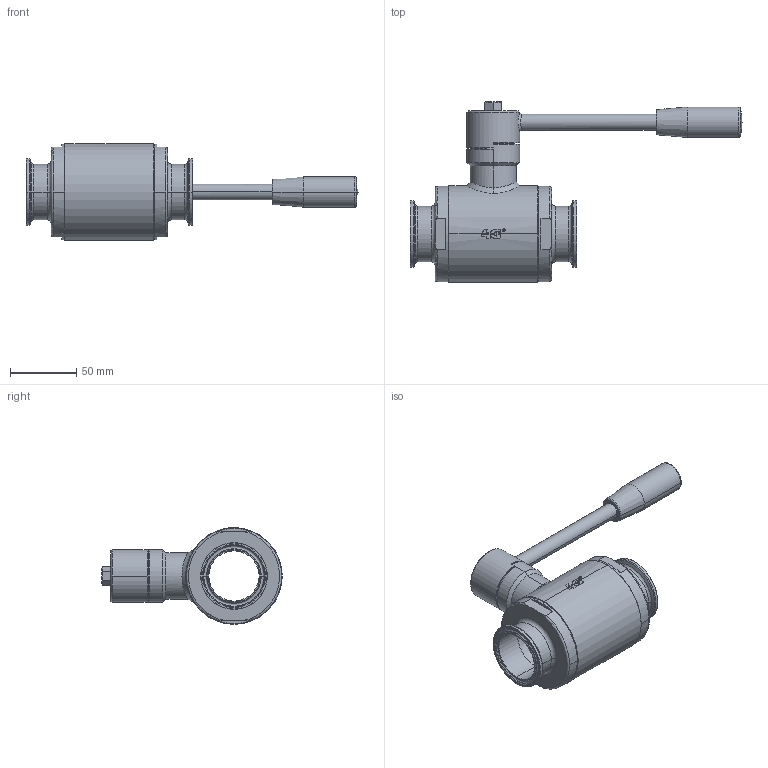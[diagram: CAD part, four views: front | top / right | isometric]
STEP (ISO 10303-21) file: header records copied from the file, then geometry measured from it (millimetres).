
FILE_DESCRIPTION((''),'2;1');
FILE_NAME('10013063510_SW0001','2025-05-05T14:54:50',('tecnico2'),('CDM Tecnoconsulting'),'CREO PARAMETRIC BY PTC INC, 2024063','CREO PARAMETRIC BY PTC INC, 2024063','');
FILE_SCHEMA(('CONFIG_CONTROL_DESIGN','SHAPE_APPEARANCE_LAYERS_GROUPS'));
Products named in the file (1): 10013063510_SW0001
Bounding box: 251 x 136.5 x 73 mm (x, y, z)
Volume: 339300.5 mm3; surface area: 103177.4 mm2
Topology: 1 solids, 1 shells, 841 faces, 2295 edges, 1463 vertices
Faces by surface type: plane 369, cylinder 154, extrusion 111, cone 94, bspline 57, torus 50, sphere 6
Entity records: 52494 total; most frequent: CARTESIAN_POINT 22924, ORIENTED_EDGE 4554, DIRECTION 3620, PRESENTATION_STYLE_ASSIGNMENT 2645, STYLED_ITEM 2333, CURVE_STYLE 2332, EDGE_CURVE 2277, VERTEX_POINT 1463
